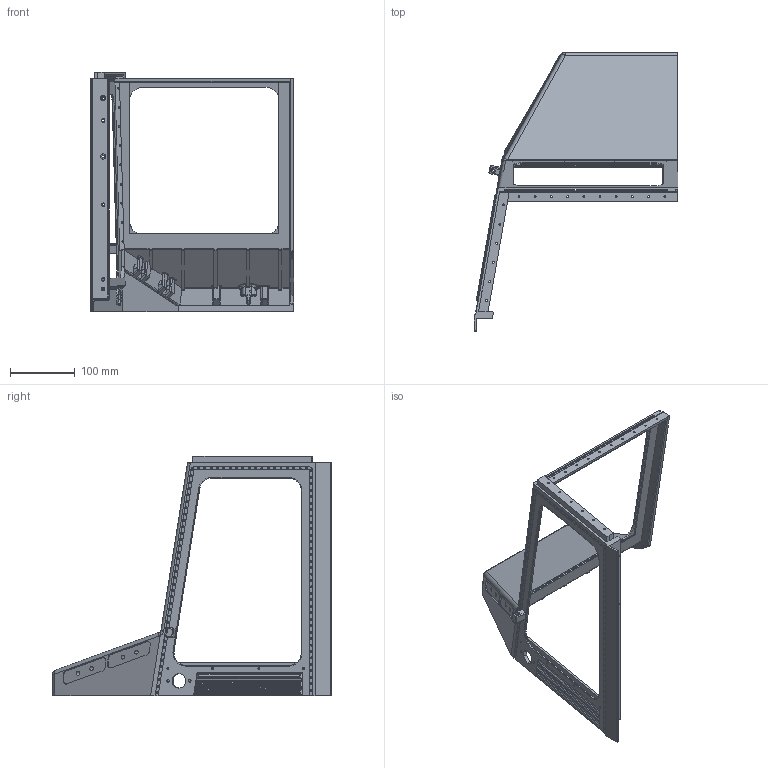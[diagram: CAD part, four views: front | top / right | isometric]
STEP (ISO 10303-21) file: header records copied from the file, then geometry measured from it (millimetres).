
FILE_DESCRIPTION(('STEP AP242 Edition 2','STEP AP242 Edition 2''CAx-IF Rec.Pracs.---Representation and Presentation of Product Manufacturing Information (PMI)---4.0---2014-10-13','STEP AP242 Edition 2''CAx-IF Rec.Pracs.---Representation and Presentation of Product Manufacturing Information (PMI)---4.0---2014-10-13''CAx-IF Rec.Pracs.---3D Tessellated Geometry---0.4---2014-09-14','STEP AP242 Edition 2''CAx-IF Rec.Pracs.---Representation and Presentation of Product Manufacturing Information (PMI)---4.0---2014-10-13''CAx-IF Rec.Pracs.---3D Tessellated Geometry---0.4---2014-09-14''2;1','STEP AP242 Edition 2''CAx-IF Rec.Pracs.---Representation and Presentation of Product Manufacturing Information (PMI)---4.0---2014-10-13''CAx-IF Rec.Pracs.---3D Tessellated Geometry---0.4---2014-09-14''2;1''CAx-IF Rec.Pracs.---User Defined Attributes---1.5---2016-08-15'),'2;1');
FILE_NAME('/vol/tmp/translate-5928582753522486027/Part Studio Body Front - Part Front Left Middle - Blue Car Color.step','2026-05-02T13:02:38',(''),(''),'ST-DEVELOPER v20','ONSHAPE BY PTC INC, 1.214',' ');
FILE_SCHEMA(('AP242_MANAGED_MODEL_BASED_3D_ENGINEERING_MIM_LF { 1 0 10303 442 3 1 4 }'));
Length unit declared in the file: metre
Products named in the file (1): Part Front Left Middle - Blue Car Color
Bounding box: 314 x 430 x 369.5 mm (x, y, z)
Volume: 651513.5 mm3; surface area: 342695.3 mm2
Topology: 1 solids, 1 shells, 778 faces, 1923 edges, 1224 vertices
Faces by surface type: plane 337, cylinder 270, cone 99, bspline 43, sphere 15, torus 14
Full cylindrical faces by diameter (mm): 2.75 x38, 3 x23, 4 x8, 5.6 x4, 6 x7, 6.8 x1, 8 x2
Entity records: 24337 total; most frequent: CARTESIAN_POINT 5651, DIRECTION 3905, ORIENTED_EDGE 3334, EDGE_CURVE 1667, AXIS2_PLACEMENT_3D 1543, FACE_BOUND 1198, EDGE_LOOP 1189, VERTEX_POINT 1177
